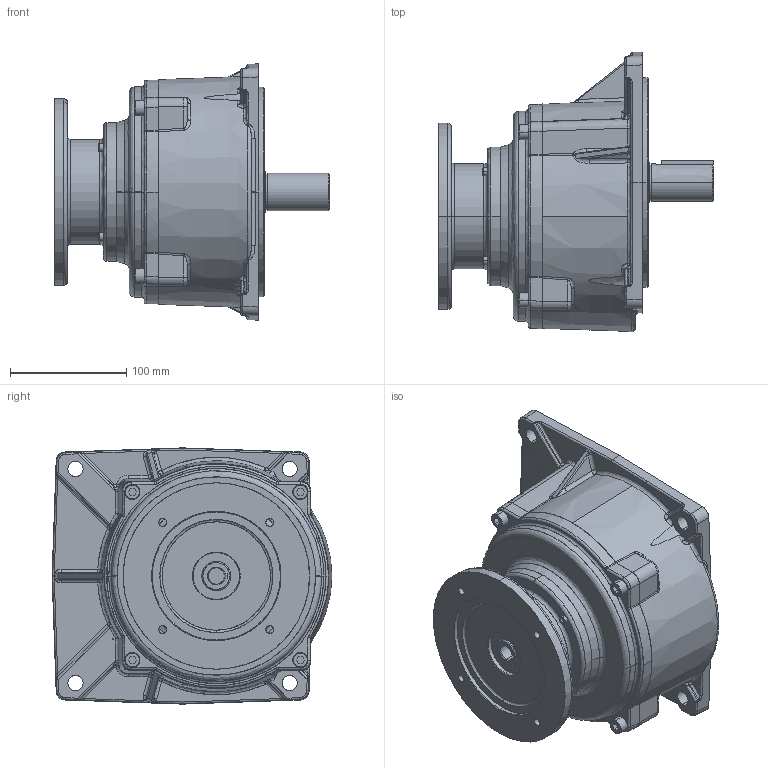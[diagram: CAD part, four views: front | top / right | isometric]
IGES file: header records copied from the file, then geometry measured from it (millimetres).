
Start section: SolidWorks IGES file using analytic representation for surfaces
Bounding box: 236 x 240.19 x 220 mm (x, y, z)
Surface area: 334535.3 mm2 (no closed solid volume)
Topology: 0 solids, 0 shells, 667 faces, 9094 edges, 9083 vertices
Faces by surface type: bspline 404, revolution 263
